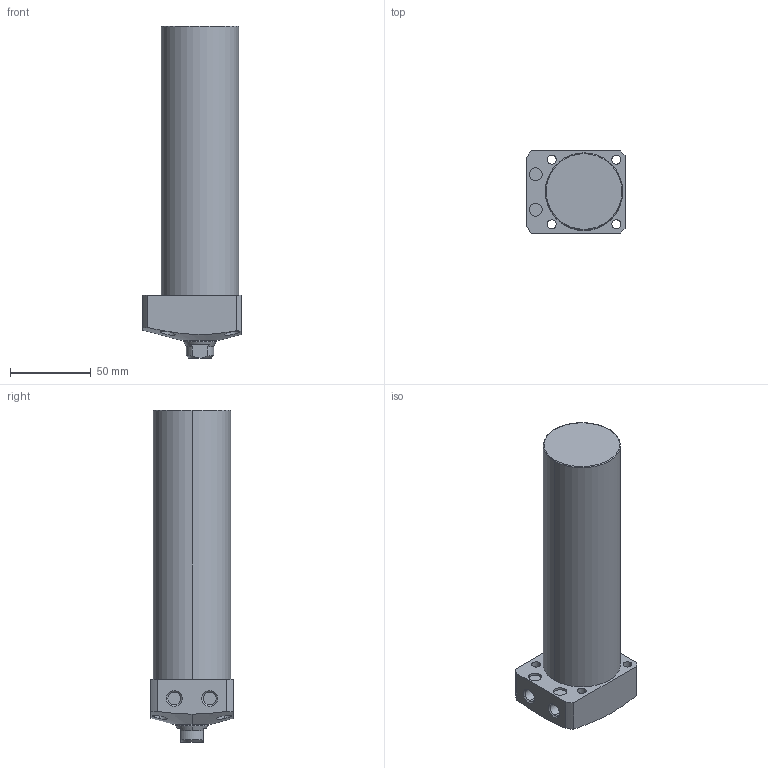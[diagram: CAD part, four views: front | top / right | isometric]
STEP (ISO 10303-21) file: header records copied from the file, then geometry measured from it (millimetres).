
FILE_DESCRIPTION (( 'STEP AP203' ), '1' );
FILE_NAME ('CLL-048CA-140.STEP', '2019-12-21T07:28:06', ( '' ), ( '' ), 'SwSTEP 2.0', 'SolidWorks 2015', '' );
FILE_SCHEMA (( 'CONFIG_CONTROL_DESIGN' ));
Length unit declared in the file: millimetre
Products named in the file (1): CLL-048CA-140
Bounding box: 61 x 51 x 206 mm (x, y, z)
Volume: 376396.5 mm3; surface area: 39959.4 mm2
Topology: 1 solids, 1 shells, 74 faces, 170 edges, 107 vertices
Faces by surface type: cylinder 35, plane 22, cone 15, torus 2
Entity records: 2535 total; most frequent: CARTESIAN_POINT 748, DIRECTION 374, ORIENTED_EDGE 336, EDGE_CURVE 168, AXIS2_PLACEMENT_3D 155, VERTEX_POINT 107, EDGE_LOOP 93, CIRCLE 80
